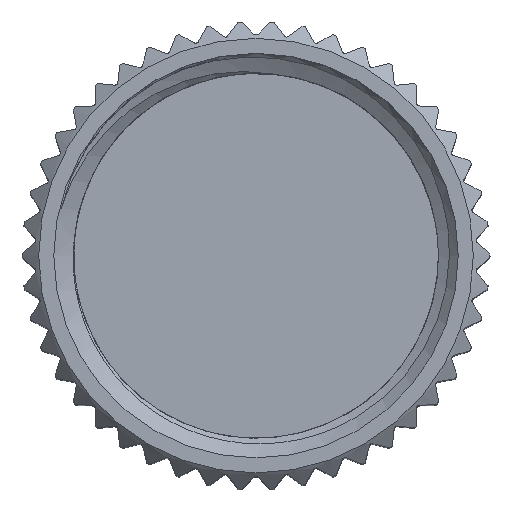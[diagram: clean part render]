
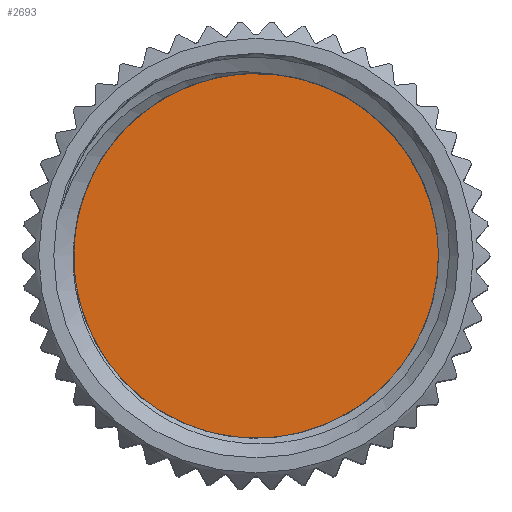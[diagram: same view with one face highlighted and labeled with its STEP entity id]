
A CAD part, top view. The second image highlights one B-rep face of the part: STEP entity #2693.
In plain terms, the highlighted planar face has unit normal (0, 0, 1).
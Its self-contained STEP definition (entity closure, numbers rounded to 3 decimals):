
#381 = VERTEX_POINT ( 'NONE', #3685 ) ;
#2033 = DIRECTION ( 'NONE',  ( 1., 0., 0. ) ) ;
#2162 = AXIS2_PLACEMENT_3D ( 'NONE', #12606, #4214, #2033 ) ;
#2693 = ADVANCED_FACE ( 'NONE', ( #7743 ), #13141, .T. ) ;
#3504 = CARTESIAN_POINT ( 'NONE',  ( 0., 0., -6.9 ) ) ;
#3685 = CARTESIAN_POINT ( 'NONE',  ( 6.05, 0., -6.9 ) ) ;
#4214 = DIRECTION ( 'NONE',  ( 0., 0., 1. ) ) ;
#4255 = ORIENTED_EDGE ( 'NONE', *, *, #8237, .T. ) ;
#4502 = DIRECTION ( 'NONE',  ( 1., 0., 0. ) ) ;
#4552 = DIRECTION ( 'NONE',  ( 0., 0., 1. ) ) ;
#5533 = CIRCLE ( 'NONE', #2162, 6.05 ) ;
#6972 = EDGE_LOOP ( 'NONE', ( #4255 ) ) ;
#7743 = FACE_OUTER_BOUND ( 'NONE', #6972, .T. ) ;
#8237 = EDGE_CURVE ( 'NONE', #381, #381, #5533, .T. ) ;
#10601 = AXIS2_PLACEMENT_3D ( 'NONE', #3504, #4552, #4502 ) ;
#12606 = CARTESIAN_POINT ( 'NONE',  ( 0., 0., -6.9 ) ) ;
#13141 = PLANE ( 'NONE',  #10601 ) ;
